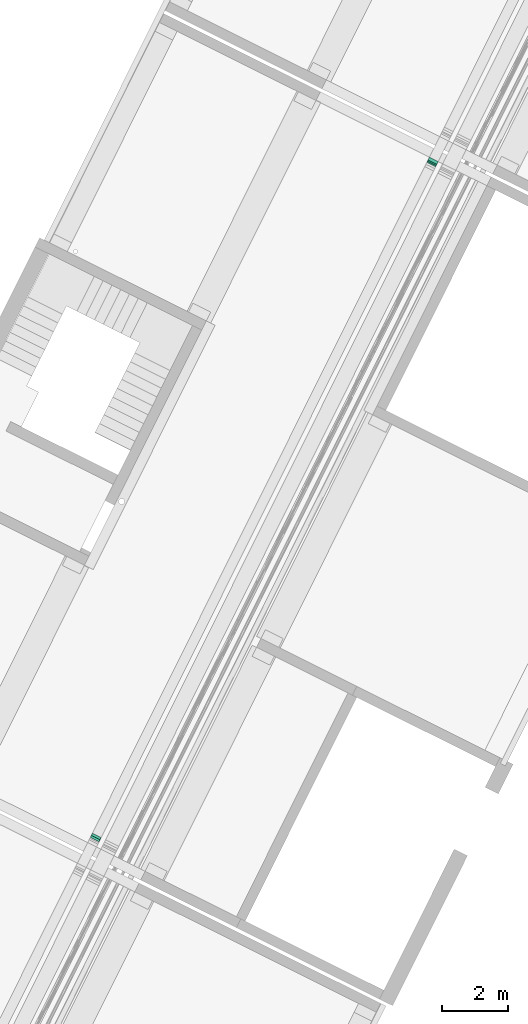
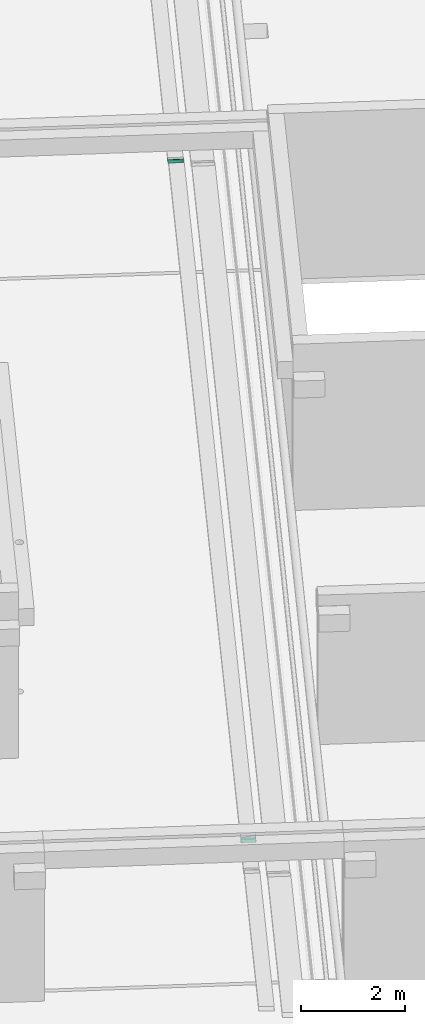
# One storey, part 29 of 47: 2 flow fittings, 1 flow segment.
"""IFC2X3 building model written with IfcOpenShell, lengths in metres."""

from ifc_helpers import new_model, entity, si_unit, converted_unit, derived_unit, direction, frame, frame_2d, origin, place, context, subcontext, project, spatial, rectangle, extrude, faceted_brep, source, transform, mapped, type_object, type_shapes, element, save


model = new_model("IFC2X3")

# Units and contexts
model_context = context("Model", 3, precision=1e-05, world=origin(), true_north=direction((0.894925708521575, 0.446215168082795)))
context_of_model = context(None, 3, precision=1e-05, world=origin(), true_north=direction((0.894925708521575, 0.446215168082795)))
body_context = subcontext(model_context, "Body", "Model", "MODEL_VIEW")
ifc_project = project(units=[si_unit("LENGTHUNIT", "METRE"), si_unit("AREAUNIT", "SQUARE_METRE"), si_unit("VOLUMEUNIT", "CUBIC_METRE"), converted_unit("PLANEANGLEUNIT", "DEGREE", entity("IfcRatioMeasure", 0.0174532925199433), si_unit("PLANEANGLEUNIT", "RADIAN"), dimensions=[0, 0, 0, 0, 0, 0, 0]), si_unit("MASSUNIT", "GRAM", prefix="KILO"), si_unit("TIMEUNIT", "SECOND"), si_unit("FREQUENCYUNIT", "HERTZ"), si_unit("THERMODYNAMICTEMPERATUREUNIT", "DEGREE_CELSIUS"), derived_unit("THERMALTRANSMITTANCEUNIT", [(si_unit("MASSUNIT", "GRAM", prefix="KILO"), 1), (si_unit("THERMODYNAMICTEMPERATUREUNIT", "KELVIN"), -1), (si_unit("TIMEUNIT", "SECOND"), -3)]), derived_unit("VOLUMETRICFLOWRATEUNIT", [(si_unit("LENGTHUNIT", "METRE"), 3), (si_unit("TIMEUNIT", "SECOND"), -1)]), si_unit("ELECTRICCURRENTUNIT", "AMPERE"), si_unit("ELECTRICVOLTAGEUNIT", "VOLT"), si_unit("POWERUNIT", "WATT"), si_unit("FORCEUNIT", "NEWTON", prefix="KILO"), si_unit("ILLUMINANCEUNIT", "LUX"), si_unit("LUMINOUSFLUXUNIT", "LUMEN"), si_unit("LUMINOUSINTENSITYUNIT", "CANDELA"), si_unit("PRESSUREUNIT", "PASCAL")], contexts=[model_context, context_of_model])

# Site, building, storey
site_placement = place(None, frame((218.228324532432, 584.720189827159, 0.0), z_axis=(0.0, 0.0, 1.0), x_axis=(0.446215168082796, 0.894925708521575, 0.0)))
site = spatial("IfcSite", under=ifc_project, at=site_placement, Name="Default", CompositionType="ELEMENT")
building_placement = place(site_placement, origin())
building = spatial("IfcBuilding", under=site, at=building_placement, CompositionType="ELEMENT")
storey_placement = place(building_placement, frame((0.0, 0.0, 4.69)))
storey = spatial("IfcBuildingStorey", under=building, at=storey_placement, Name="1 - Piano Primo", CompositionType="ELEMENT", Elevation=4.69)

# Flow segment
cable_carrier_segment_type = type_object("IfcCableCarrierSegmentType", Name="Passerella con raccordi:Passerella canale", PredefinedType="NOTDEFINED")
flow_segment_placement = place(storey_placement, frame((10.616168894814, -3.35107899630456, 2.92822448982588)))
element("IfcFlowSegment", 1, at=flow_segment_placement, inside=storey, type_object=cable_carrier_segment_type, Name="Passerella con raccordi:Passerella canale", ObjectType="Passerella con raccordi:Passerella canale", context=body_context, shape_type="SweptSolid", body=[
    extrude(rectangle(XDim=0.0749999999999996, YDim=0.0527002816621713, at=frame_2d((2.70616862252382e-16, 4.64905891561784e-16), x_axis=(0.0, 1.0))), frame((0.0415698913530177, 0.0, 0.0456510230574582), z_axis=(0.0, 1.0, 0.0), x_axis=(-0.866025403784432, 0.0, 0.500000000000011)), (0.0, 0.0, 1.0), 0.3),
])

# Flow fittings
cable_carrier_fitting_type_1 = type_object("IfcCableCarrierFittingType", Name="Standard", PredefinedType="NOTDEFINED")
shared_shape_1 = source(origin(), body_context, "Body", "Brep", [
    faceted_brep([(-0.0608988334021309, -0.0374999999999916, -0.150000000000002), (-0.0608988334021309, -0.0374999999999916, -0.147460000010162), (-0.0608988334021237, 0.0349600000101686, -0.147460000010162), (-0.0608988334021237, 0.0349600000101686, 0.147460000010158), (-0.0608988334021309, -0.0374999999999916, 0.147460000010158), (-0.0608988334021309, -0.0374999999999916, 0.149999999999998), (-0.0608988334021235, 0.0375000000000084, 0.149999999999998), (-0.0608988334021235, 0.0375000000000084, -0.150000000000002), (0.0702199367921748, -0.000173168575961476, -0.147460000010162), (0.0339899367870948, -0.0629253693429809, -0.147460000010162), (0.0339899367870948, -0.0629253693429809, -0.150000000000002), (0.0714899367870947, 0.00202653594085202, -0.150000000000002), (0.0714899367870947, 0.00202653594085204, 0.149999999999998), (0.0339899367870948, -0.0629253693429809, 0.149999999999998), (0.0339899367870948, -0.0629253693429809, 0.147460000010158), (0.0702199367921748, -0.000173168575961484, 0.147460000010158), (-0.0108988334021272, -0.0374999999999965, 0.149999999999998), (-0.0100770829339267, -0.0376081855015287, 0.149999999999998), (-0.00931133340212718, -0.037925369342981, 0.149999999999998), (0.0281886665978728, 0.027026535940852, 0.149999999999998), (0.00933434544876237, 0.0348362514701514, 0.149999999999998), (-0.0108988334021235, 0.0375000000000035, 0.149999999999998), (-0.0108988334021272, 0.0375000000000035, -0.00436238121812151), (-0.0108988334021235, 0.0375000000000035, -0.150000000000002), (0.00933434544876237, 0.0348362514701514, -0.150000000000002), (0.0281886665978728, 0.027026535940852, -0.150000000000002), (-0.00931133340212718, -0.0379253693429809, -0.150000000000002), (-0.0100770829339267, -0.0376081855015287, -0.150000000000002), (-0.0108988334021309, -0.0374999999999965, -0.150000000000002), (-0.0108988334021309, -0.0374999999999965, -0.147460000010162), (-0.0108988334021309, -0.0374999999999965, 0.147460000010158), (-0.0100770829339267, -0.0376081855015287, -0.147460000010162), (-0.00931133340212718, -0.037925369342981, -0.147460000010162), (0.0269186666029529, 0.0248268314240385, -0.147460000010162), (0.00867694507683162, 0.0323827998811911, -0.147460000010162), (-0.0108988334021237, 0.0349600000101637, -0.147460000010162), (-0.0108988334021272, 0.0349600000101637, -0.00437396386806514), (-0.0108988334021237, 0.0349600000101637, 0.147460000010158), (0.00867694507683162, 0.0323827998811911, 0.147460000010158), (0.0269186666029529, 0.0248268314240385, 0.147460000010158), (-0.00931133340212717, -0.0379253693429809, 0.147460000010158), (-0.0100770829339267, -0.0376081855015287, 0.147460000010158), (0.00517118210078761, 0.0358304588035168, 0.0), (0.0281886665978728, 0.027026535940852, -0.00436237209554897), (0.00483151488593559, 0.0333061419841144, 0.0), (0.0269186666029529, 0.0248268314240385, -0.00437395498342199)], [[[0, 1, 2, 3, 4, 5, 6, 7]], [[8, 9, 10, 11, 12, 13, 14, 15]], [[5, 16, 17, 18, 13, 12, 19, 20, 21, 6]], [[21, 22, 23, 7, 6]], [[7, 23, 24, 25, 11, 10, 26, 27, 28, 0]], [[29, 1, 0, 28]], [[16, 5, 4, 30]], [[1, 29, 31, 32, 9, 8, 33, 34, 35, 2]], [[35, 36, 37, 3, 2]], [[3, 37, 38, 39, 15, 14, 40, 41, 30, 4]], [[42, 23, 22, 21]], [[25, 24, 43]], [[20, 19, 43]], [[24, 23, 42]], [[42, 20, 43]], [[24, 42, 43]], [[20, 42, 21]], [[28, 27, 31, 29]], [[16, 30, 41, 17]], [[31, 27, 26, 32]], [[41, 40, 18, 17]], [[37, 36, 35, 44]], [[45, 34, 33]], [[45, 39, 38]], [[44, 35, 34]], [[45, 38, 44]], [[45, 44, 34]], [[37, 44, 38]], [[11, 25, 43, 19, 12]], [[9, 32, 26, 10]], [[13, 18, 40, 14]], [[15, 39, 45, 33, 8]]]),
])
type_shapes(cable_carrier_fitting_type_1, [shared_shape_1])
flow_fitting_1_placement = place(storey_placement, frame((10.7332986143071, -3.20107899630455, 2.93025102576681), z_axis=(0.0, -1.0, 0.0), x_axis=(-1.0, 0.0, 0.0)))
element("IfcFlowFitting", 2, at=flow_fitting_1_placement, inside=storey, type_object=cable_carrier_fitting_type_1, Name="M_Curvatura interna verticale canale:Standard", ObjectType="Standard", context=body_context, shape_type="MappedRepresentation", body=[
    mapped(shared_shape_1, transform((0.0, 0.0, 0.0), scale=1.0)),
])
cable_carrier_fitting_type_2 = type_object("IfcCableCarrierFittingType", Name="Standard", PredefinedType="NOTDEFINED")
shared_shape_2 = source(origin(), body_context, "Body", "Brep", [
    faceted_brep([(-0.0858988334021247, -0.0375000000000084, -0.150000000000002), (-0.0858988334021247, -0.0375000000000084, -0.147460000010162), (-0.0858988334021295, 0.0349600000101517, -0.147460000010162), (-0.0858988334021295, 0.0349600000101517, 0.147460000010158), (-0.0858988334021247, -0.0375000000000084, 0.147460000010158), (-0.0858988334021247, -0.0375000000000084, 0.149999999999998), (-0.0858988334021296, 0.0374999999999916, 0.149999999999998), (-0.0858988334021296, 0.0374999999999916, -0.150000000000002), (0.0556405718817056, 0.0754253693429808, -0.150000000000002), (0.0556405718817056, 0.0754253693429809, 0.149999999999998), (0.0931405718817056, 0.0104734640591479, 0.149999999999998), (0.0931405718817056, 0.0104734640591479, 0.147460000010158), (0.0569105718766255, 0.0732256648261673, 0.147460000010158), (0.0569105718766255, 0.0732256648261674, -0.147460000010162), (0.0931405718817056, 0.0104734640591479, -0.147460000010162), (0.0931405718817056, 0.0104734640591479, -0.150000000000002), (-0.0108988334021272, -0.0375000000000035, 0.149999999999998), (-0.000782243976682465, -0.0361681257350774, 0.149999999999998), (0.0093343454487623, -0.0348362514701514, 0.149999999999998), (0.0187615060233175, -0.0309313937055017, 0.149999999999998), (0.0281886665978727, -0.027026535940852, 0.149999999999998), (-0.00931133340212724, 0.0379253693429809, 0.149999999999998), (-0.0100770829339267, 0.0376081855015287, 0.149999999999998), (-0.0108988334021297, 0.0374999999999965, 0.149999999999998), (-0.0108988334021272, 0.0374999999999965, 0.142222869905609), (-0.0108988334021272, 0.0374999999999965, 0.136736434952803), (-0.0108988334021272, 0.0374999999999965, 0.131249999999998), (-0.0108988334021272, 0.0374999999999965, 0.121874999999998), (-0.0108988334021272, 0.0374999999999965, 0.112499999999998), (-0.0108988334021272, 0.0374999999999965, 0.103124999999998), (-0.0108988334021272, 0.0374999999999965, 0.0937499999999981), (-0.0108988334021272, 0.0374999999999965, 0.0890624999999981), (-0.0108988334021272, 0.0374999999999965, 0.0843749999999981), (-0.0108988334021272, 0.0374999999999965, 0.0749999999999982), (-0.0108988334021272, 0.0374999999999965, 0.0656249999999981), (-0.0108988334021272, 0.0374999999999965, 0.0562499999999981), (-0.0108988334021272, 0.0374999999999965, 0.0468749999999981), (-0.0108988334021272, 0.0374999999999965, 0.0374999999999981), (-0.0108988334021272, 0.0374999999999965, 0.0328124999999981), (-0.0108988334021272, 0.0374999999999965, 0.0281249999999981), (-0.0108988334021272, 0.0374999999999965, 0.0187499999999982), (-0.0108988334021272, 0.0374999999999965, 0.00937499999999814), (-0.0108988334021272, 0.0374999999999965, 0.00468749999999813), (-0.0108988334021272, 0.0374999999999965, 0.0), (-0.0108988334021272, 0.0374999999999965, -0.00548643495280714), (-0.0108988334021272, 0.0374999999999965, -0.0109728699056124), (-0.0108988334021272, 0.0374999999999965, -0.0164593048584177), (-0.0108988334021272, 0.0374999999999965, -0.021945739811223), (-0.0108988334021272, 0.0374999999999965, -0.0274321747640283), (-0.0108988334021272, 0.0374999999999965, -0.0329186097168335), (-0.0108988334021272, 0.0374999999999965, -0.0384050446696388), (-0.0108988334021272, 0.0374999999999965, -0.0438914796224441), (-0.0108988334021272, 0.0374999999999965, -0.0493779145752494), (-0.0108988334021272, 0.0374999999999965, -0.0548643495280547), (-0.0108988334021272, 0.0374999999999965, -0.06035078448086), (-0.0108988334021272, 0.0374999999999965, -0.0658372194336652), (-0.0108988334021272, 0.0374999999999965, -0.0713236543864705), (-0.0108988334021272, 0.0374999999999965, -0.0768100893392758), (-0.0108988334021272, 0.0374999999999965, -0.0822965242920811), (-0.0108988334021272, 0.0374999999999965, -0.0877829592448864), (-0.0108988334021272, 0.0374999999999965, -0.0955600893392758), (-0.0108988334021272, 0.0374999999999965, -0.103337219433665), (-0.0108988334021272, 0.0374999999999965, -0.111114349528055), (-0.0108988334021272, 0.0374999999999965, -0.118891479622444), (-0.0108988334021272, 0.0374999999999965, -0.126668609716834), (-0.0108988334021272, 0.0374999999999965, -0.134445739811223), (-0.0108988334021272, 0.0374999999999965, -0.142222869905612), (-0.0108988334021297, 0.0374999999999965, -0.150000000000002), (-0.0100770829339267, 0.0376081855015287, -0.150000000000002), (-0.00931133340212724, 0.0379253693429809, -0.150000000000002), (0.0281886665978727, -0.027026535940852, -0.150000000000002), (0.0187615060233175, -0.0309313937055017, -0.150000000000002), (0.0093343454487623, -0.0348362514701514, -0.150000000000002), (-0.00136101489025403, -0.0362443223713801, -0.150000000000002), (-0.0108988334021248, -0.0375000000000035, -0.150000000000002), (-0.0108988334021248, -0.0375000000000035, -0.147460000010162), (-0.0108988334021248, -0.0375000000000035, 0.147460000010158), (-0.000782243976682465, -0.0361681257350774, -0.147460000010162), (0.0093343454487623, -0.0348362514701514, -0.147460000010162), (0.0187615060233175, -0.0309313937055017, -0.147460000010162), (0.0281886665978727, -0.027026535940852, -0.147460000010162), (-0.00804133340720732, 0.0357256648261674, -0.147460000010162), (-0.00941968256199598, 0.0351547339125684, -0.147460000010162), (-0.0108988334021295, 0.0349600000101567, -0.147460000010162), (-0.0108988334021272, 0.0349600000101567, -0.137025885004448), (-0.0108988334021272, 0.0349600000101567, -0.126591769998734), (-0.0108988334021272, 0.0349600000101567, -0.11615765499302), (-0.0108988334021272, 0.0349600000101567, -0.105723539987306), (-0.0108988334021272, 0.0349600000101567, -0.0952894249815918), (-0.0108988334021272, 0.0349600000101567, -0.0848553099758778), (-0.0108988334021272, 0.0349600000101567, -0.0744211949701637), (-0.0108988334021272, 0.0349600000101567, -0.0639870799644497), (-0.0108988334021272, 0.0349600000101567, -0.0479903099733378), (-0.0108988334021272, 0.0349600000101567, -0.0319935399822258), (-0.0108988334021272, 0.0349600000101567, -0.0159967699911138), (-0.0108988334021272, 0.0349600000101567, 0.0), (-0.0108988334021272, 0.0349600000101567, 0.0184325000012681), (-0.0108988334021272, 0.0349600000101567, 0.0368650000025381), (-0.0108988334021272, 0.0349600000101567, 0.0552975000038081), (-0.0108988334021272, 0.0349600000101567, 0.0737300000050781), (-0.0108988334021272, 0.0349600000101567, 0.0921625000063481), (-0.0108988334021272, 0.0349600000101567, 0.110595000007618), (-0.0108988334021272, 0.0349600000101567, 0.12659176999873), (-0.0108988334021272, 0.0349600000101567, 0.137025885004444), (-0.0108988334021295, 0.0349600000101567, 0.147460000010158), (-0.00941968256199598, 0.0351547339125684, 0.147460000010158), (-0.00804133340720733, 0.0357256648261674, 0.147460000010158), (0.0281886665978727, -0.027026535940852, 0.147460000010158), (0.0193008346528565, -0.0307079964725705, 0.147460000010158), (0.0093343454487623, -0.0348362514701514, 0.147460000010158), (-0.000782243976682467, -0.0361681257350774, 0.147460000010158), (-0.0100160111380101, 0.0376252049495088, 0.0878571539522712), (-0.00931133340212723, 0.0379253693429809, -0.0786763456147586), (-0.0101159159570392, 0.0375980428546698, -0.0740668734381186), (-0.00931133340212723, 0.0379253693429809, -0.0677034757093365), (-0.00931133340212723, 0.0379253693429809, -0.0731899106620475), (-0.00931133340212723, 0.0379253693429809, -0.0512441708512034), (-0.00931133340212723, 0.0379253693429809, -0.0567306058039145), (-0.0101159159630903, 0.0375980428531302, -0.052121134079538), (-0.00931133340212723, 0.0379253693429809, -0.0457577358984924), (-0.0100430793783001, 0.0376174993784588, 0.017385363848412), (-0.0100062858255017, 0.0376280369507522, 0.0107980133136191), (-0.00999532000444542, 0.0376312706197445, 0.122780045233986), (-0.0101719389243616, 0.0375843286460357, 0.0236284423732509), (-0.00931133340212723, 0.0379253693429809, 0.0200794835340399), (-0.00931133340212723, 0.0379253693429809, -0.146111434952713), (-0.00931133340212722, 0.0379253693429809, 0.134445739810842), (-0.0100770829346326, 0.0376081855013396, 0.138334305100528), (-0.00931133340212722, 0.0379253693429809, 0.14222286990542), (-0.0100060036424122, 0.0376281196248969, -0.142569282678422), (-0.010097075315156, 0.0376028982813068, 0.0605630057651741), (-0.00931133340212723, 0.0379253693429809, 0.0566744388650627), (-0.0100663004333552, 0.0376110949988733, 0.054247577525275), (-0.0100389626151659, 0.0376186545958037, -0.119824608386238), (-0.0101157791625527, 0.0375980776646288, -0.129790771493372), (-0.01011591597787, 0.0375980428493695, -0.0301753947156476), (-0.0100662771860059, 0.0376111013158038, 0.0824060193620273), (-0.00931133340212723, 0.0379253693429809, 0.0800058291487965), (-0.0099977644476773, 0.0376305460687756, 0.0761172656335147), (-0.0100563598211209, 0.0376138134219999, 0.0388108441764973), (-0.00931133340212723, 0.0379253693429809, 0.0411201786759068), (-0.00931133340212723, 0.0379253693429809, 0.0333430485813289), (-0.00931133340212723, 0.0379253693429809, -0.0347848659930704), (-0.00931133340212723, 0.0379253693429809, -0.0238119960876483), (-0.00931133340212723, 0.0379253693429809, -0.0292984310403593), (-0.00931133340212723, 0.0379253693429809, -0.0128391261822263), (-0.0101159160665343, 0.0375980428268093, -0.00822965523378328), (-0.00931133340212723, 0.0379253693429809, -0.00186625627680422), (-0.00931133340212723, 0.0379253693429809, -0.00735269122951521), (-0.010022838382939, 0.0376232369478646, 0.144167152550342), (-0.00931133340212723, 0.0379253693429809, 0.0488973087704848), (-0.0100105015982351, 0.0376268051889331, 0.0450087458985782), (-0.0100992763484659, 0.0376023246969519, 0.00234375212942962), (-0.0101111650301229, 0.0375992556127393, 0.06937590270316), (-0.00931133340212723, 0.0379253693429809, 0.0145930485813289), (-0.0100494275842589, 0.0376157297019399, -0.136209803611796), (-0.0101258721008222, 0.0375955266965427, -0.0371719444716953), (-0.00931133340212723, 0.0379253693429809, -0.0402713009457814), (-0.0100191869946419, 0.0376242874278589, -0.0434785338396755), (-0.0101258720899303, 0.0375955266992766, -0.0591176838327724), (-0.0100602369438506, 0.0376127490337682, -0.0934055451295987), (-0.0100098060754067, 0.0376270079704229, -0.11311245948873), (-0.010067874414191, 0.0376106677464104, 0.0994486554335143), (-0.0100492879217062, 0.0376157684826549, 0.0933153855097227), (-0.00931133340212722, 0.0379253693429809, 0.111114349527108), (-0.00931133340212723, 0.0379253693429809, 0.10333721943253), (-0.010108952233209, 0.0375998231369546, 0.109805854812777), (-0.0100522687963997, 0.0376149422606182, 0.132170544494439), (-0.00931133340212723, 0.0379253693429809, -0.13902713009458), (-0.010106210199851, 0.0376005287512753, 0.116092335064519), (-0.00931133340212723, 0.0379253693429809, -0.133540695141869), (-0.0101258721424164, 0.0375955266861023, -0.0152262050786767), (-0.0100191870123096, 0.0376242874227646, -0.0215327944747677), (-0.00931133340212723, 0.0379253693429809, -0.0183255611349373), (-0.0101258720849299, 0.0375955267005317, -0.0810634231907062), (-0.0100191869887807, 0.037624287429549, -0.0654242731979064), (-0.00931133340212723, 0.0379253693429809, -0.0622170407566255), (-0.00931133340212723, 0.0379253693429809, -0.0896492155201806), (-0.00931133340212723, 0.0379253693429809, -0.0951356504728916), (-0.0100191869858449, 0.0376242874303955, -0.0873700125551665), (-0.00931133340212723, 0.0379253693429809, -0.0841627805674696), (-0.00931133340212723, 0.0379253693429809, -0.122567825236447), (-0.00931133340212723, 0.0379253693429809, -0.117081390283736), (-0.0101042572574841, 0.0376010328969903, -0.105576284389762), (-0.00931133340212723, 0.0379253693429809, -0.106108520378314), (-0.00931133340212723, 0.0379253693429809, -0.111594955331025), (-0.00931133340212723, 0.0379253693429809, -0.100622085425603), (-0.00931133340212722, 0.0379253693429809, 0.126668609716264), (-0.00931133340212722, 0.0379253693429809, 0.118891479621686), (-0.00931133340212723, 0.0379253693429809, -0.128054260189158), (-0.00931133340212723, 0.0379253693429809, 0.0955600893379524), (-0.00931133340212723, 0.0379253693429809, 0.0877829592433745), (-0.00931133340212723, 0.0379253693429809, 0.0722286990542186), (-0.00931133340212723, 0.0379253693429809, 0.0644515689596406), (-0.0100612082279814, 0.0376124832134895, 0.0304687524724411), (-0.00931133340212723, 0.0379253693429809, 0.0255659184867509), (-0.00931133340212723, 0.0379253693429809, 0.00910661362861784), (-0.00931133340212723, 0.0379253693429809, 0.00362017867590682), (-0.0100571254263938, 0.0376136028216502, -0.0994486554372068), (-0.00941968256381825, 0.0351547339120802, -0.0559886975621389), (-0.00804133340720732, 0.0357256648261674, -0.0535529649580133), (-0.00943516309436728, 0.0351506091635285, -0.0450563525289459), (-0.00941968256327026, 0.035154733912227, -0.0670727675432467), (-0.00941968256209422, 0.0351547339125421, -0.131808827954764), (-0.00941968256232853, 0.0351547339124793, -0.118338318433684), (-0.00941968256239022, 0.0351547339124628, -0.107538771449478), (-0.00941968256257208, 0.0351547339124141, -0.0931087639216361), (-0.00941968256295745, 0.0351547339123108, -0.0796382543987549), (-0.00804133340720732, 0.0357256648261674, 0.131463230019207), (-0.00951383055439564, 0.0351303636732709, 0.119704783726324), (-0.00804133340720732, 0.0357256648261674, 0.115466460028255), (-0.009539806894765, 0.035123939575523, 0.0276487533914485), (-0.00938820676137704, 0.0351632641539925, 0.0142687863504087), (-0.00944772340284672, 0.0351472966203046, 0.0964175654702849), (-0.00938732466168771, 0.0351635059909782, 0.00298298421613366), (-0.00804133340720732, 0.0357256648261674, -0.137025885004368), (-0.00804133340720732, 0.0357256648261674, -0.126591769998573), (-0.00804133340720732, 0.0357256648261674, -0.116157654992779), (-0.00804133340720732, 0.0357256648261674, -0.105723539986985), (-0.00804133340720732, 0.0357256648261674, -0.0952894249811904), (-0.00804133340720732, 0.0357256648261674, -0.0848553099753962), (-0.00804133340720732, 0.0357256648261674, -0.0744211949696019), (-0.00804133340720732, 0.0357256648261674, -0.0639870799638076), (-0.00960988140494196, 0.0351072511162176, 0.0843997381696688), (-0.00931691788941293, 0.0351833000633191, 0.0731869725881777), (-0.00804133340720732, 0.0357256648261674, -0.0326847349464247), (-0.00804133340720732, 0.0357256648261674, -0.0222506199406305), (-0.00939822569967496, 0.0351605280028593, -0.0274676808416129), (-0.00938352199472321, 0.0351645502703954, 0.0609207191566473), (-0.00804133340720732, 0.0357256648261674, 0.0194858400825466), (-0.00804133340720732, 0.0357256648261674, 0.0354826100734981), (-0.0092916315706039, 0.0351906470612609, -0.0159019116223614), (-0.00950624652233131, 0.0351322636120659, 0.131808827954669), (-0.0092516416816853, 0.0352025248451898, 0.107597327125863), (-0.00804133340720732, 0.0357256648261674, 0.0834729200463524), (-0.00804133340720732, 0.0357256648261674, 0.0994696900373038), (-0.00804133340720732, 0.0357256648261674, 0.0674761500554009), (-0.00804133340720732, 0.0357256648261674, -0.043118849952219), (-0.00939896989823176, 0.0351603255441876, 0.0385250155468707), (-0.00953825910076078, 0.0351243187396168, 0.0497283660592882), (-0.00804133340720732, 0.0357256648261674, 0.00905172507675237), (-0.00804133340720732, 0.0357256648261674, -0.0118165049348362), (-0.00804133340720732, 0.0357256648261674, -0.00138238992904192), (-0.00804133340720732, 0.0357256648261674, 0.0514793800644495)], [[[0, 1, 2, 3, 4, 5, 6, 7]], [[8, 9, 10, 11, 12, 13, 14, 15]], [[5, 16, 17, 18, 19, 20, 10, 9, 21, 22, 23, 6]], [[7, 6, 23, 24, 25, 26, 27, 28, 29, 30, 31, 32, 33, 34, 35, 36, 37, 38, 39, 40, 41, 42, 43, 44, 45, 46, 47, 48, 49, 50, 51, 52, 53, 54, 55, 56, 57, 58, 59, 60, 61, 62, 63, 64, 65, 66, 67]], [[7, 67, 68, 69, 8, 15, 70, 71, 72, 73, 74, 0]], [[1, 0, 74, 75]], [[5, 4, 76, 16]], [[1, 75, 77, 78, 79, 80, 14, 13, 81, 82, 83, 2]], [[3, 2, 83, 84, 85, 86, 87, 88, 89, 90, 91, 92, 93, 94, 95, 96, 97, 98, 99, 100, 101, 102, 103, 104]], [[3, 104, 105, 106, 12, 11, 107, 108, 109, 110, 76, 4]], [[31, 111, 32]], [[112, 113, 114, 115]], [[116, 117, 118, 119]], [[57, 56, 113]], [[53, 52, 118]], [[120, 121, 41]], [[122, 27, 26]], [[123, 124, 120]], [[125, 69, 68]], [[126, 127, 128]], [[68, 129, 125]], [[130, 131, 132]], [[133, 134, 64]], [[49, 48, 135]], [[136, 137, 138]], [[139, 140, 141]], [[142, 135, 143, 144]], [[145, 146, 147, 148]], [[149, 128, 127]], [[150, 151, 132]], [[152, 147, 146]], [[33, 153, 34]], [[151, 140, 139]], [[120, 154, 121]], [[129, 66, 155]], [[156, 157, 158]], [[118, 117, 159]], [[59, 160, 60]], [[161, 63, 62]], [[34, 153, 130]], [[162, 163, 30]], [[164, 165, 166]], [[26, 25, 167]], [[129, 168, 125]], [[169, 164, 166]], [[127, 24, 149]], [[155, 134, 170]], [[127, 126, 167]], [[65, 155, 66]], [[149, 24, 23]], [[68, 67, 66]], [[25, 24, 127]], [[149, 22, 21]], [[146, 145, 171]], [[135, 142, 156]], [[172, 171, 173]], [[113, 112, 174]], [[175, 159, 176]], [[177, 178, 160]], [[179, 174, 180]], [[127, 167, 25]], [[155, 168, 129]], [[66, 129, 68]], [[170, 168, 155]], [[133, 181, 134]], [[161, 182, 133]], [[65, 134, 155]], [[183, 161, 62]], [[133, 63, 161]], [[181, 133, 182]], [[63, 133, 64]], [[184, 185, 183, 186]], [[187, 122, 167]], [[42, 152, 44, 43]], [[122, 26, 167]], [[188, 122, 187]], [[169, 122, 188]], [[167, 126, 187]], [[189, 170, 134, 181]], [[28, 27, 169]], [[122, 169, 27]], [[166, 29, 28]], [[166, 28, 169]], [[169, 188, 164]], [[162, 190, 163]], [[190, 162, 165]], [[162, 29, 166]], [[165, 162, 166]], [[29, 162, 30]], [[138, 33, 136]], [[163, 190, 191]], [[32, 111, 136]], [[137, 192, 138]], [[32, 136, 33]], [[136, 191, 137]], [[192, 153, 138]], [[138, 153, 33]], [[131, 130, 193]], [[35, 130, 132]], [[153, 192, 193]], [[31, 30, 163]], [[193, 130, 153]], [[130, 35, 34]], [[191, 136, 111]], [[37, 151, 139]], [[36, 132, 151]], [[36, 35, 132]], [[140, 151, 150]], [[132, 131, 150]], [[36, 151, 37]], [[39, 194, 123]], [[38, 37, 139]], [[38, 194, 39]], [[123, 194, 195]], [[139, 141, 194]], [[139, 194, 38]], [[194, 141, 195]], [[123, 40, 39]], [[40, 123, 120]], [[40, 120, 41]], [[123, 195, 124]], [[42, 41, 121]], [[121, 196, 152]], [[121, 152, 42]], [[128, 149, 21]], [[171, 45, 146]], [[44, 146, 45]], [[48, 47, 46, 172]], [[171, 172, 46]], [[146, 44, 152]], [[152, 196, 197, 147]], [[172, 143, 135]], [[156, 49, 135]], [[172, 135, 48]], [[51, 50, 158, 52]], [[55, 54, 175, 56]], [[156, 158, 50]], [[158, 119, 118]], [[159, 53, 118]], [[158, 118, 52]], [[159, 175, 54]], [[175, 114, 113]], [[174, 57, 113]], [[175, 113, 56]], [[61, 183, 62]], [[59, 58, 179]], [[174, 179, 58]], [[60, 198, 61]], [[179, 177, 160]], [[160, 178, 198]], [[61, 198, 183]], [[198, 186, 183]], [[124, 154, 120]], [[172, 173, 143]], [[158, 157, 119]], [[175, 176, 114]], [[179, 180, 177]], [[185, 161, 183]], [[179, 160, 59]], [[160, 198, 60]], [[121, 154, 196]], [[23, 22, 149]], [[185, 182, 161]], [[145, 173, 171]], [[142, 157, 156]], [[117, 176, 159]], [[112, 180, 174]], [[64, 134, 65]], [[111, 163, 191]], [[163, 111, 31]], [[46, 45, 171]], [[50, 49, 156]], [[54, 53, 159]], [[58, 57, 174]], [[198, 178, 186]], [[77, 75, 74, 73, 72, 78]], [[76, 110, 109, 18, 17, 16]], [[79, 78, 72, 71, 70, 80]], [[109, 108, 107, 20, 19, 18]], [[199, 200, 201]], [[202, 199, 92, 91, 90, 89, 88, 87, 86, 85, 84, 83, 82, 203, 204, 205, 206, 207]], [[105, 104, 103]], [[208, 209, 210]], [[211, 96, 212]], [[213, 101, 100]], [[95, 214, 212]], [[206, 205, 204, 203, 82, 81, 215, 216, 217, 218, 219, 220, 221, 222, 200, 199, 202, 207]], [[106, 105, 208]], [[223, 99, 224]], [[225, 226, 227]], [[99, 228, 224]], [[211, 229, 230]], [[231, 95, 94]], [[94, 227, 231]], [[208, 232, 209]], [[209, 101, 233]], [[105, 103, 232]], [[102, 232, 103]], [[232, 102, 209]], [[105, 232, 208]], [[102, 101, 209]], [[234, 235, 213]], [[233, 213, 235]], [[210, 209, 233]], [[234, 213, 223]], [[235, 210, 233]], [[101, 213, 233]], [[213, 100, 223]], [[100, 99, 223]], [[224, 228, 236]], [[201, 92, 199]], [[223, 224, 234]], [[211, 97, 96]], [[200, 237, 225, 201]], [[97, 211, 238]], [[97, 238, 239]], [[240, 212, 214]], [[229, 212, 240]], [[95, 212, 96]], [[229, 211, 212]], [[238, 211, 230]], [[93, 92, 201]], [[227, 94, 93]], [[227, 201, 225]], [[227, 226, 231]], [[201, 227, 93]], [[231, 226, 241, 242]], [[231, 242, 214]], [[230, 243, 238]], [[243, 228, 239]], [[228, 99, 98]], [[234, 224, 236]], [[239, 228, 98]], [[243, 236, 228]], [[97, 239, 98]], [[243, 239, 238]], [[231, 214, 95]], [[240, 214, 242]], [[9, 8, 69, 125, 168, 170, 189, 181, 182, 185, 184, 186, 178, 177, 180, 112, 115, 114, 176, 117, 116, 119, 157, 142, 144, 143, 173, 145, 148, 147, 197, 196, 154, 124, 195, 141, 140, 150, 131, 193, 192, 137, 191, 190, 165, 164, 188, 187, 126, 128, 21]], [[80, 70, 15, 14]], [[20, 107, 11, 10]], [[12, 106, 208, 210, 235, 234, 236, 243, 230, 229, 240, 242, 241, 226, 225, 237, 200, 222, 221, 220, 219, 218, 217, 216, 215, 81, 13]]]),
])
type_shapes(cable_carrier_fitting_type_2, [shared_shape_2])
flow_fitting_2_placement = place(storey_placement, frame((-12.2507200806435, -3.20107899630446, 3.03000000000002), z_axis=(0.0, -1.0, 0.0), x_axis=(-1.0, 0.0, 0.0)))
element("IfcFlowFitting", 3, at=flow_fitting_2_placement, inside=storey, type_object=cable_carrier_fitting_type_2, Name="M_Curvatura esterna verticale canale:Standard", ObjectType="Standard", context=body_context, shape_type="MappedRepresentation", body=[
    mapped(shared_shape_2, transform((0.0, 0.0, 0.0), scale=1.0)),
])

save(model, "model.ifc")
